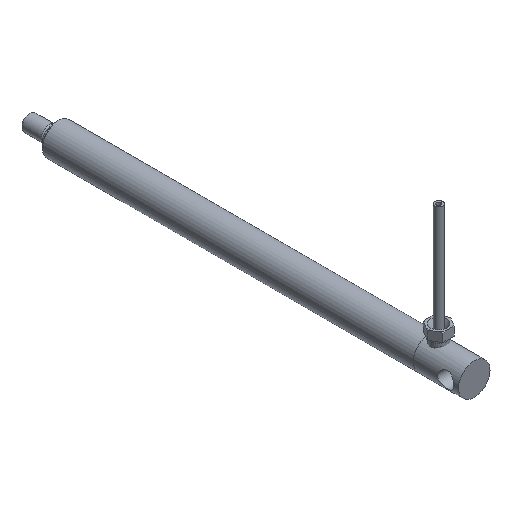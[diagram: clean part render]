
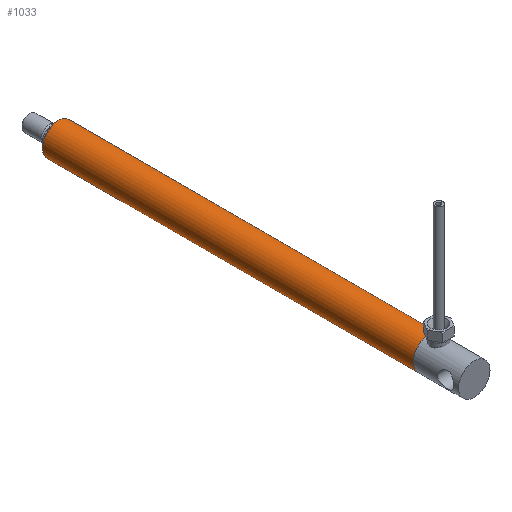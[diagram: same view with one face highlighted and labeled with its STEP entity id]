
A CAD part, isometric view. The second image highlights one B-rep face of the part: STEP entity #1033.
In plain terms, the highlighted cylindrical face has radius 8 mm (diameter 16 mm), a full revolution.
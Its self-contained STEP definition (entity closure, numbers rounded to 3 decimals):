
#151=CYLINDRICAL_SURFACE('',#1660,8.);
#186=ORIENTED_EDGE('',*,*,#399,.F.);
#187=ORIENTED_EDGE('',*,*,#403,.T.);
#399=EDGE_CURVE('',#509,#509,#608,.T.);
#403=EDGE_CURVE('',#513,#513,#612,.T.);
#509=VERTEX_POINT('',#2179);
#513=VERTEX_POINT('',#2190);
#608=CIRCLE('',#1652,8.);
#612=CIRCLE('',#1659,8.);
#688=EDGE_LOOP('',(#186));
#689=EDGE_LOOP('',(#187));
#847=FACE_BOUND('',#688,.T.);
#848=FACE_BOUND('',#689,.T.);
#1033=ADVANCED_FACE('',(#847,#848),#151,.T.);
#1652=AXIS2_PLACEMENT_3D('',#2178,#1824,#1825);
#1659=AXIS2_PLACEMENT_3D('',#2189,#1838,#1839);
#1660=AXIS2_PLACEMENT_3D('',#2191,#1840,#1841);
#1824=DIRECTION('',(-1.,0.,0.));
#1825=DIRECTION('',(0.,0.,1.));
#1838=DIRECTION('',(-1.,0.,0.));
#1839=DIRECTION('',(0.,0.,1.));
#1840=DIRECTION('',(-1.,0.,0.));
#1841=DIRECTION('',(0.,0.,1.));
#2178=CARTESIAN_POINT('',(0.,0.,0.));
#2179=CARTESIAN_POINT('',(0.,0.,8.));
#2189=CARTESIAN_POINT('',(188.,0.,0.));
#2190=CARTESIAN_POINT('',(188.,0.,8.));
#2191=CARTESIAN_POINT('',(-60.,0.,0.));
